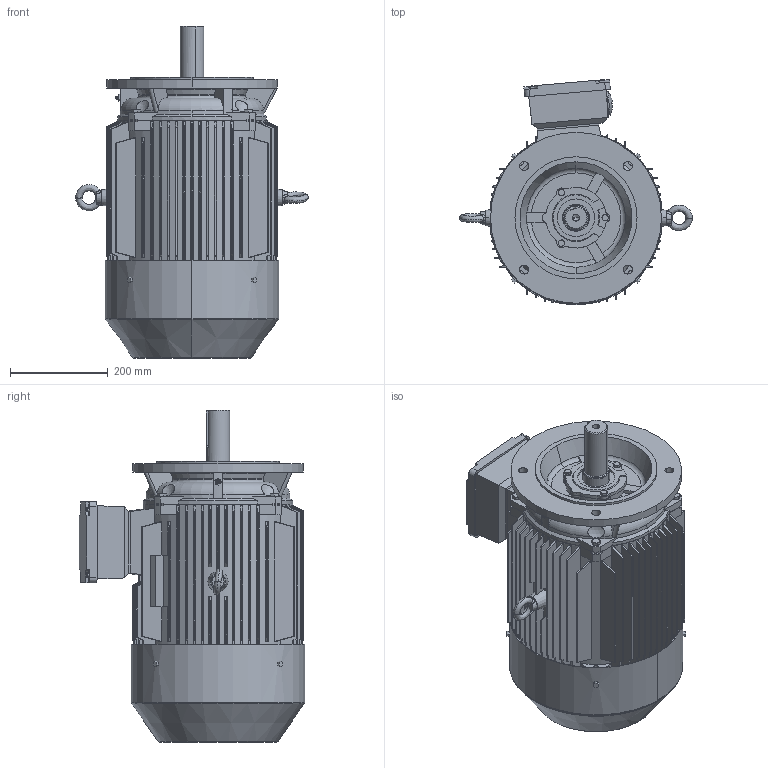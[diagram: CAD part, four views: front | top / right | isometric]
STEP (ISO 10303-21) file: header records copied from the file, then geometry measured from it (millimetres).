
FILE_DESCRIPTION (( 'STEP AP203' ), '1' );
FILE_NAME ('TE3-180M-2 V1 2018.STEP', '2019-11-19T03:17:33', ( '微软用户' ), ( '微软中国' ), 'SwSTEP 2.0', 'SolidWorks 2012', '' );
FILE_SCHEMA (( 'CONFIG_CONTROL_DESIGN' ));
Length unit declared in the file: millimetre
Products named in the file (14): TE3-180M-2 V1 2018; 蚐戚; hexagon head bolts gb_GB_FASTENER_BOLT_SB A M8X40-N; hexagon head bolts-full thread gb_GB_FASTENER_BOLT_STBAB A M10X20-N; 5EJ.354.484GX160~180P24諉盄碟; hexagon head bolts-full thread gb_GB_FASTENER_BOLT_STBAB A M6X12-N; 8EJ.353.10053GX160~180P24諉盄碟裔; 8EJ.354.593Y2-160~180P24諉盄碟釱; eyebolts gb_GB_FASTENER_SCREWS_FRS M12-N; YX3-180 粣ㄗ粣扥ㄘ; YX3-180-2 粣創俋裔; YX3-180 瑞欶; Y2-180-2芧埽傷裔017.00088; Y2-180M B5奻 儂釱
Assembly tree (22 placements, depth 3):
  TE3-180M-2 V1 2018
    Y2-180M B5奻 儂釱
    Y2-180-2芧埽傷裔017.00088
    YX3-180 瑞欶
    YX3-180-2 粣創俋裔
    YX3-180 粣ㄗ粣扥ㄘ
    eyebolts gb_GB_FASTENER_SCREWS_FRS M12-N  x2
    5EJ.354.484GX160~180P24諉盄碟
      8EJ.354.593Y2-160~180P24諉盄碟釱
      8EJ.353.10053GX160~180P24諉盄碟裔
      hexagon head bolts-full thread gb_GB_FASTENER_BOLT_STBAB A M6X12-N  x4
    hexagon head bolts-full thread gb_GB_FASTENER_BOLT_STBAB A M10X20-N  x4
    hexagon head bolts gb_GB_FASTENER_BOLT_SB A M8X40-N  x3
    蚐戚
Bounding box: 476.2 x 461.54 x 680 mm (x, y, z)
Volume: 33084966.4 mm3; surface area: 2432433.9 mm2
Topology: 22 solids, 23 shells, 3187 faces, 8324 edges, 5474 vertices
Faces by surface type: plane 1563, cylinder 1185, cone 327, torus 68, bspline 36, sphere 8
Entity records: 99463 total; most frequent: CARTESIAN_POINT 23933, ORIENTED_EDGE 15458, DIRECTION 15434, EDGE_CURVE 7729, AXIS2_PLACEMENT_3D 5511, VERTEX_POINT 5110, VECTOR 4412, LINE 4412
